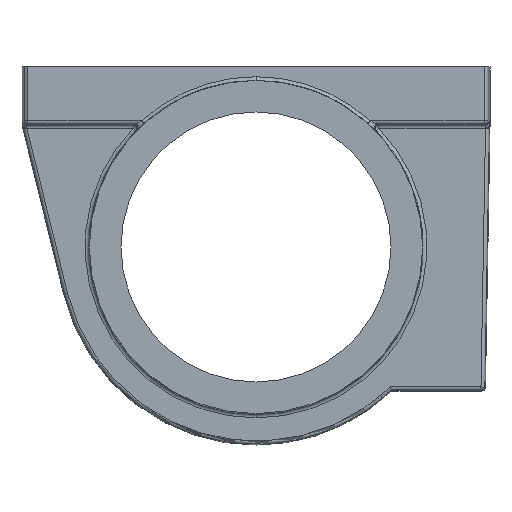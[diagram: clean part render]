
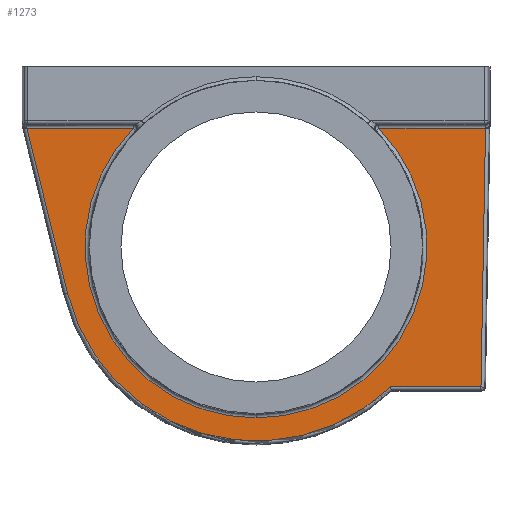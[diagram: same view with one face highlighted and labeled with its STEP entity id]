
A CAD part, front view. The second image highlights one B-rep face of the part: STEP entity #1273.
In plain terms, the highlighted planar face has unit normal (0, -1, 0).
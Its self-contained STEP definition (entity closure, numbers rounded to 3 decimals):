
#19 = VECTOR ( 'NONE', #2275, 1000. ) ;
#21 = AXIS2_PLACEMENT_3D ( 'NONE', #2459, #3788, #3114 ) ;
#46 = ORIENTED_EDGE ( 'NONE', *, *, #2242, .T. ) ;
#66 = ORIENTED_EDGE ( 'NONE', *, *, #503, .T. ) ;
#138 = EDGE_CURVE ( 'NONE', #1083, #3033, #2730, .T. ) ;
#167 = AXIS2_PLACEMENT_3D ( 'NONE', #3225, #1928, #2245 ) ;
#193 = CARTESIAN_POINT ( 'NONE',  ( 37.301, -15., -82.878 ) ) ;
#233 = LINE ( 'NONE', #4044, #1304 ) ;
#254 = VERTEX_POINT ( 'NONE', #2854 ) ;
#432 = VERTEX_POINT ( 'NONE', #2364 ) ;
#503 = EDGE_CURVE ( 'NONE', #3033, #1741, #1466, .T. ) ;
#587 = DIRECTION ( 'NONE',  ( -1., 0., 0. ) ) ;
#702 = ORIENTED_EDGE ( 'NONE', *, *, #3379, .T. ) ;
#710 = CARTESIAN_POINT ( 'NONE',  ( 34.117, -15., -11. ) ) ;
#727 = CARTESIAN_POINT ( 'NONE',  ( 63.746, -15., -10.553 ) ) ;
#831 = AXIS2_PLACEMENT_3D ( 'NONE', #3516, #2236, #2527 ) ;
#1083 = VERTEX_POINT ( 'NONE', #3526 ) ;
#1133 = CARTESIAN_POINT ( 'NONE',  ( -64.728, -15., -11. ) ) ;
#1145 = DIRECTION ( 'NONE',  ( 0.239, 0., -0.971 ) ) ;
#1158 = ORIENTED_EDGE ( 'NONE', *, *, #1269, .T. ) ;
#1269 = EDGE_CURVE ( 'NONE', #432, #2502, #1901, .T. ) ;
#1273 = ADVANCED_FACE ( 'NONE', ( #3492 ), #2259, .F. ) ;
#1304 = VECTOR ( 'NONE', #4025, 1000. ) ;
#1322 = DIRECTION ( 'NONE',  ( 0., 0., 1. ) ) ;
#1346 = EDGE_CURVE ( 'NONE', #254, #432, #1628, .T. ) ;
#1466 = LINE ( 'NONE', #3427, #3770 ) ;
#1626 = EDGE_CURVE ( 'NONE', #2643, #1083, #4111, .T. ) ;
#1628 = LINE ( 'NONE', #727, #19 ) ;
#1741 = VERTEX_POINT ( 'NONE', #1743 ) ;
#1743 = CARTESIAN_POINT ( 'NONE',  ( -52.319, -15., -56.866 ) ) ;
#1901 = LINE ( 'NONE', #2850, #3975 ) ;
#1928 = DIRECTION ( 'NONE',  ( 0., -1., 0. ) ) ;
#1933 = EDGE_CURVE ( 'NONE', #1741, #3191, #2712, .T. ) ;
#2156 = DIRECTION ( 'NONE',  ( -1., 0., 0. ) ) ;
#2236 = DIRECTION ( 'NONE',  ( 0., 1., 0. ) ) ;
#2242 = EDGE_CURVE ( 'NONE', #3191, #254, #233, .T. ) ;
#2245 = DIRECTION ( 'NONE',  ( 0., 0., 1. ) ) ;
#2259 = PLANE ( 'NONE',  #831 ) ;
#2275 = DIRECTION ( 'NONE',  ( 0.017, 0., 1. ) ) ;
#2283 = ORIENTED_EDGE ( 'NONE', *, *, #1626, .T. ) ;
#2341 = ORIENTED_EDGE ( 'NONE', *, *, #1346, .T. ) ;
#2362 = CARTESIAN_POINT ( 'NONE',  ( 0., -15., -91.465 ) ) ;
#2364 = CARTESIAN_POINT ( 'NONE',  ( 63.738, -15., -11. ) ) ;
#2459 = CARTESIAN_POINT ( 'NONE',  ( 0., -15., -44. ) ) ;
#2502 = VERTEX_POINT ( 'NONE', #710 ) ;
#2527 = DIRECTION ( 'NONE',  ( 0., 0., 1. ) ) ;
#2643 = VERTEX_POINT ( 'NONE', #2362 ) ;
#2712 = CIRCLE ( 'NONE', #167, 53.878 ) ;
#2730 = LINE ( 'NONE', #1133, #3898 ) ;
#2850 = CARTESIAN_POINT ( 'NONE',  ( 31.683, -15., -11. ) ) ;
#2854 = CARTESIAN_POINT ( 'NONE',  ( 62.483, -15., -82.878 ) ) ;
#2875 = DIRECTION ( 'NONE',  ( 0., 1., 0. ) ) ;
#2936 = CARTESIAN_POINT ( 'NONE',  ( 0., -15., -44. ) ) ;
#2958 = ORIENTED_EDGE ( 'NONE', *, *, #1933, .T. ) ;
#2989 = CIRCLE ( 'NONE', #3120, 47.465 ) ;
#3033 = VERTEX_POINT ( 'NONE', #3565 ) ;
#3114 = DIRECTION ( 'NONE',  ( 0., 0., 1. ) ) ;
#3120 = AXIS2_PLACEMENT_3D ( 'NONE', #2936, #2875, #1322 ) ;
#3191 = VERTEX_POINT ( 'NONE', #193 ) ;
#3225 = CARTESIAN_POINT ( 'NONE',  ( 0., -15., -44. ) ) ;
#3379 = EDGE_CURVE ( 'NONE', #2502, #2643, #2989, .T. ) ;
#3427 = CARTESIAN_POINT ( 'NONE',  ( -52.319, -15., -56.866 ) ) ;
#3492 = FACE_OUTER_BOUND ( 'NONE', #3677, .T. ) ;
#3516 = CARTESIAN_POINT ( 'NONE',  ( 0., -15., -44. ) ) ;
#3526 = CARTESIAN_POINT ( 'NONE',  ( -34.117, -15., -11. ) ) ;
#3565 = CARTESIAN_POINT ( 'NONE',  ( -63.598, -15., -11. ) ) ;
#3587 = ORIENTED_EDGE ( 'NONE', *, *, #138, .T. ) ;
#3677 = EDGE_LOOP ( 'NONE', ( #2283, #3587, #66, #2958, #46, #2341, #1158, #702 ) ) ;
#3770 = VECTOR ( 'NONE', #1145, 1000. ) ;
#3788 = DIRECTION ( 'NONE',  ( 0., 1., 0. ) ) ;
#3898 = VECTOR ( 'NONE', #2156, 1000. ) ;
#3975 = VECTOR ( 'NONE', #587, 1000. ) ;
#4025 = DIRECTION ( 'NONE',  ( 1., 0., 0. ) ) ;
#4044 = CARTESIAN_POINT ( 'NONE',  ( 63.449, -15., -82.878 ) ) ;
#4111 = CIRCLE ( 'NONE', #21, 47.465 ) ;
